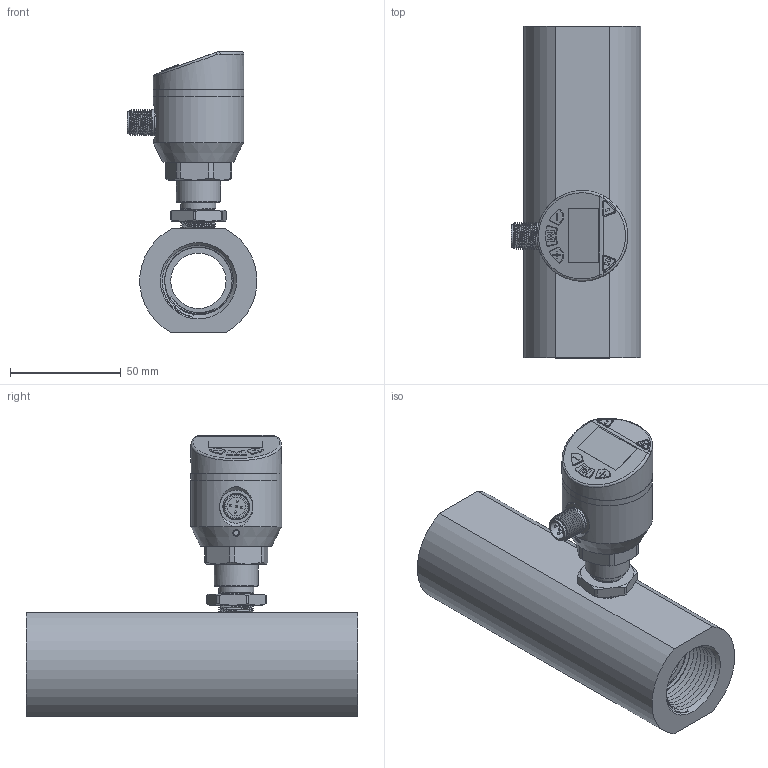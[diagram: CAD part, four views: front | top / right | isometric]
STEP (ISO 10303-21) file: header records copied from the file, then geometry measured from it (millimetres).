
FILE_DESCRIPTION( (''), '2;1');
FILE_NAME( 'QTKA_DN25_female-thread.step', '2024-01-11T15:17:10+08:00', (''), (''), '', '', '');
FILE_SCHEMA (('AUTOMOTIVE_DESIGN { 1 0 10303 214 3 1 1 1 }'));
Length unit declared in the file: millimetre
Products named in the file (1): QTKA DN25_female-thread
Bounding box: 58.61 x 150 x 127.3 mm (x, y, z)
Volume: 262555 mm3; surface area: 70023.8 mm2
Topology: 5 solids, 7 shells, 445 faces, 1072 edges, 677 vertices
Faces by surface type: plane 152, cylinder 139, bspline 60, cone 49, torus 39, sphere 6
Full cylindrical faces by diameter (mm): 1 x5, 2.7 x4, 8.4 x1, 9.7 x1, 9.8 x1, 10.1 x1, 11.6 x1, 12 x1, 15 x1, 15.9 x1, 20 x1, 23 x3, 25 x1, 26 x4, 26.1 x1, 30.5 x2, 37 x1, 41 x3
Entity records: 30991 total; most frequent: CARTESIAN_POINT 19926, ORIENTED_EDGE 1954, DIRECTION 1884, EDGE_CURVE 977, AXIS2_PLACEMENT_3D 749, VERTEX_POINT 638, EDGE_LOOP 541, ADVANCED_FACE 442
